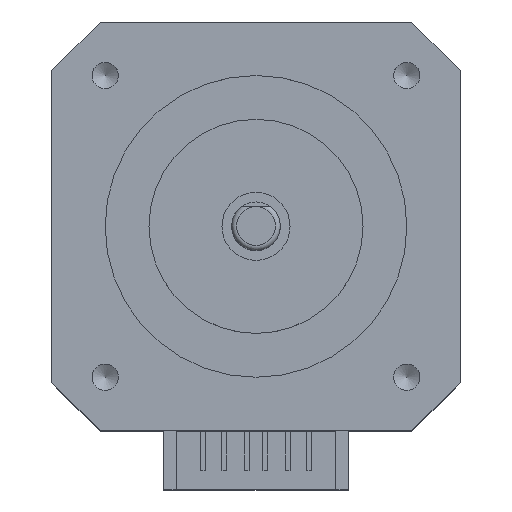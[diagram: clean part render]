
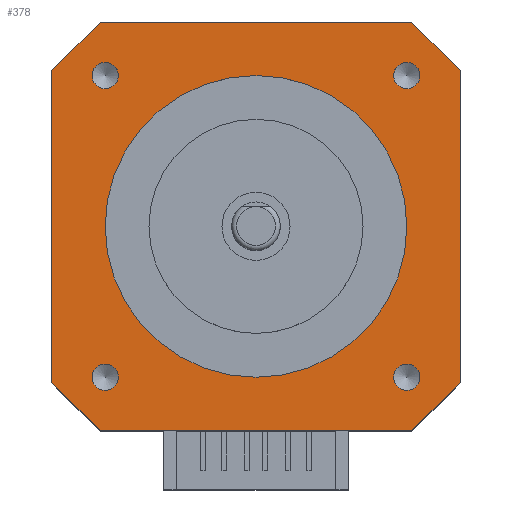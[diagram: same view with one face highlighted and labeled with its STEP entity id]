
A CAD part, top view. The second image highlights one B-rep face of the part: STEP entity #378.
In plain terms, the highlighted planar face has unit normal (0, 0, 1).
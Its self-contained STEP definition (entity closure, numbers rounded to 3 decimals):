
#116=PLANE('',#2868);
#378=ADVANCED_FACE('',(#1199,#1200,#1201,#1202,#1203,#1204),#116,.F.);
#626=LINE('',#3970,#944);
#627=LINE('',#3973,#945);
#628=LINE('',#3975,#946);
#629=LINE('',#3977,#947);
#630=LINE('',#3979,#948);
#631=LINE('',#3981,#949);
#632=LINE('',#3983,#950);
#633=LINE('',#3985,#951);
#944=VECTOR('',#3174,1.);
#945=VECTOR('',#3175,1.);
#946=VECTOR('',#3176,1.);
#947=VECTOR('',#3177,1.);
#948=VECTOR('',#3178,1.);
#949=VECTOR('',#3179,1.);
#950=VECTOR('',#3180,1.);
#951=VECTOR('',#3181,1.);
#1199=FACE_BOUND('',#1289,.T.);
#1200=FACE_BOUND('',#1290,.T.);
#1201=FACE_BOUND('',#1291,.T.);
#1202=FACE_BOUND('',#1292,.T.);
#1203=FACE_BOUND('',#1293,.T.);
#1204=FACE_BOUND('',#1294,.T.);
#1289=EDGE_LOOP('',(#1570));
#1290=EDGE_LOOP('',(#1571));
#1291=EDGE_LOOP('',(#1572));
#1292=EDGE_LOOP('',(#1573));
#1293=EDGE_LOOP('',(#1574,#1575,#1576,#1577,#1578,#1579,#1580,#1581));
#1294=EDGE_LOOP('',(#1582));
#1570=ORIENTED_EDGE('',*,*,#2541,.T.);
#1571=ORIENTED_EDGE('',*,*,#2542,.T.);
#1572=ORIENTED_EDGE('',*,*,#2543,.T.);
#1573=ORIENTED_EDGE('',*,*,#2544,.T.);
#1574=ORIENTED_EDGE('',*,*,#2545,.F.);
#1575=ORIENTED_EDGE('',*,*,#2546,.T.);
#1576=ORIENTED_EDGE('',*,*,#2547,.F.);
#1577=ORIENTED_EDGE('',*,*,#2548,.T.);
#1578=ORIENTED_EDGE('',*,*,#2549,.F.);
#1579=ORIENTED_EDGE('',*,*,#2550,.T.);
#1580=ORIENTED_EDGE('',*,*,#2551,.F.);
#1581=ORIENTED_EDGE('',*,*,#2552,.T.);
#1582=ORIENTED_EDGE('',*,*,#2553,.T.);
#2283=VERTEX_POINT('',#3963);
#2284=VERTEX_POINT('',#3965);
#2285=VERTEX_POINT('',#3967);
#2286=VERTEX_POINT('',#3969);
#2287=VERTEX_POINT('',#3971);
#2288=VERTEX_POINT('',#3972);
#2289=VERTEX_POINT('',#3974);
#2290=VERTEX_POINT('',#3976);
#2291=VERTEX_POINT('',#3978);
#2292=VERTEX_POINT('',#3980);
#2293=VERTEX_POINT('',#3982);
#2294=VERTEX_POINT('',#3984);
#2295=VERTEX_POINT('',#3987);
#2541=EDGE_CURVE('',#2283,#2283,#2815,.T.);
#2542=EDGE_CURVE('',#2284,#2284,#2816,.T.);
#2543=EDGE_CURVE('',#2285,#2285,#2817,.T.);
#2544=EDGE_CURVE('',#2286,#2286,#2818,.T.);
#2545=EDGE_CURVE('',#2287,#2288,#626,.T.);
#2546=EDGE_CURVE('',#2287,#2289,#627,.T.);
#2547=EDGE_CURVE('',#2290,#2289,#628,.T.);
#2548=EDGE_CURVE('',#2290,#2291,#629,.T.);
#2549=EDGE_CURVE('',#2292,#2291,#630,.T.);
#2550=EDGE_CURVE('',#2292,#2293,#631,.T.);
#2551=EDGE_CURVE('',#2294,#2293,#632,.T.);
#2552=EDGE_CURVE('',#2294,#2288,#633,.T.);
#2553=EDGE_CURVE('',#2295,#2295,#2819,.T.);
#2815=CIRCLE('',#2863,1.35);
#2816=CIRCLE('',#2864,1.35);
#2817=CIRCLE('',#2865,1.35);
#2818=CIRCLE('',#2866,1.35);
#2819=CIRCLE('',#2867,15.5);
#2863=AXIS2_PLACEMENT_3D('',#3962,#3166,#3167);
#2864=AXIS2_PLACEMENT_3D('',#3964,#3168,#3169);
#2865=AXIS2_PLACEMENT_3D('',#3966,#3170,#3171);
#2866=AXIS2_PLACEMENT_3D('',#3968,#3172,#3173);
#2867=AXIS2_PLACEMENT_3D('',#3986,#3182,#3183);
#2868=AXIS2_PLACEMENT_3D('',#3988,#3184,#3185);
#3166=DIRECTION('',(0.,0.,-1.));
#3167=DIRECTION('',(-1.,0.,0.));
#3168=DIRECTION('',(0.,0.,-1.));
#3169=DIRECTION('',(-1.,0.,0.));
#3170=DIRECTION('',(0.,0.,-1.));
#3171=DIRECTION('',(-1.,0.,0.));
#3172=DIRECTION('',(0.,0.,-1.));
#3173=DIRECTION('',(-1.,0.,0.));
#3174=DIRECTION('',(1.,0.,0.));
#3175=DIRECTION('',(-0.707,-0.707,0.));
#3176=DIRECTION('',(0.,1.,0.));
#3177=DIRECTION('',(0.707,-0.707,0.));
#3178=DIRECTION('',(-1.,0.,0.));
#3179=DIRECTION('',(0.707,0.707,0.));
#3180=DIRECTION('',(0.,-1.,0.));
#3181=DIRECTION('',(-0.707,0.707,0.));
#3182=DIRECTION('',(0.,0.,-1.));
#3183=DIRECTION('',(1.,0.,0.));
#3184=DIRECTION('',(0.,0.,-1.));
#3185=DIRECTION('',(-1.,0.,0.));
#3962=CARTESIAN_POINT('',(15.5,-15.5,0.));
#3963=CARTESIAN_POINT('',(14.15,-15.5,0.));
#3964=CARTESIAN_POINT('',(15.5,15.5,0.));
#3965=CARTESIAN_POINT('',(14.15,15.5,0.));
#3966=CARTESIAN_POINT('',(-15.5,15.5,0.));
#3967=CARTESIAN_POINT('',(-16.85,15.5,0.));
#3968=CARTESIAN_POINT('',(-15.5,-15.5,0.));
#3969=CARTESIAN_POINT('',(-16.85,-15.5,0.));
#3970=CARTESIAN_POINT('',(-21.,21.,0.));
#3971=CARTESIAN_POINT('',(-16.,21.,0.));
#3972=CARTESIAN_POINT('',(16.,21.,0.));
#3973=CARTESIAN_POINT('',(-16.,21.,0.));
#3974=CARTESIAN_POINT('',(-21.,16.,0.));
#3975=CARTESIAN_POINT('',(-21.,-21.,0.));
#3976=CARTESIAN_POINT('',(-21.,-16.,0.));
#3977=CARTESIAN_POINT('',(-21.,-16.,0.));
#3978=CARTESIAN_POINT('',(-16.,-21.,0.));
#3979=CARTESIAN_POINT('',(21.,-21.,0.));
#3980=CARTESIAN_POINT('',(16.,-21.,0.));
#3981=CARTESIAN_POINT('',(16.,-21.,0.));
#3982=CARTESIAN_POINT('',(21.,-16.,0.));
#3983=CARTESIAN_POINT('',(21.,21.,0.));
#3984=CARTESIAN_POINT('',(21.,16.,0.));
#3985=CARTESIAN_POINT('',(21.,16.,0.));
#3986=CARTESIAN_POINT('',(0.,0.,0.));
#3987=CARTESIAN_POINT('',(15.5,0.,0.));
#3988=CARTESIAN_POINT('',(-21.,-21.,0.));
